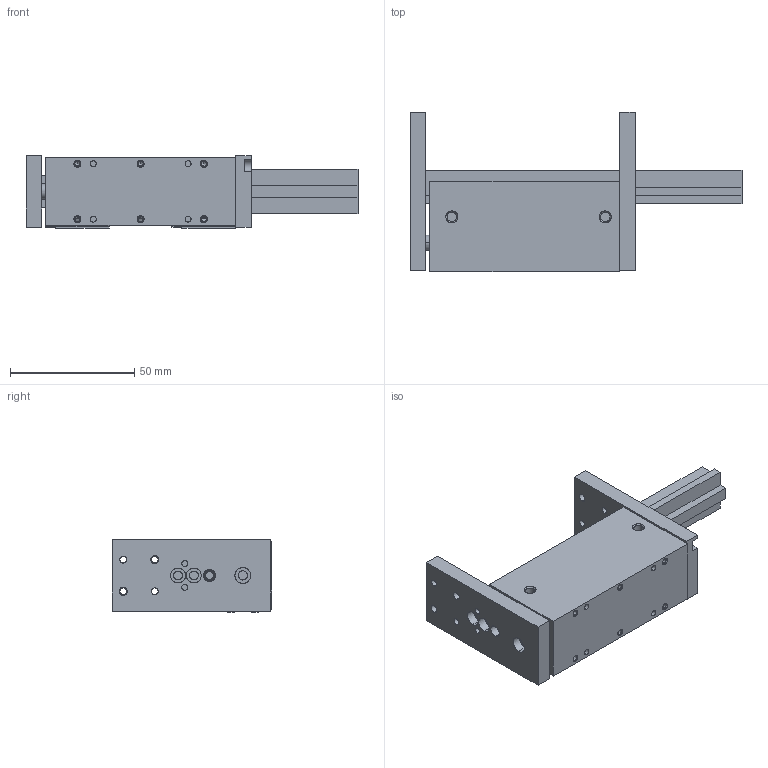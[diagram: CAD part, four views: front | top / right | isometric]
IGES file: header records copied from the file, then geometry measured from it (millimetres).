
Start section: SolidWorks IGES file using analytic representation for surfaces
Global section: file name: C:\Users\jmkuhnes\Pictures\My Transfers\AGPS\AGPS-2-4\AGPS-2-4 CLOSED in MM.IGS; native system: SolidWorks 2013; preprocessor: SolidWorks 2013; author: jmkuhnes; date: 141121.140431; units: millimetre
Bounding box: 133.35 x 64.16 x 29 mm (x, y, z)
Surface area: 39189.2 mm2 (no closed solid volume)
Topology: 0 solids, 0 shells, 332 faces, 5418 edges, 5400 vertices
Faces by surface type: revolution 203, bspline 129
